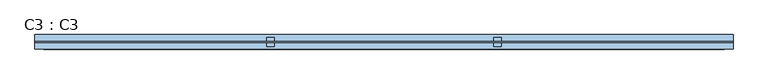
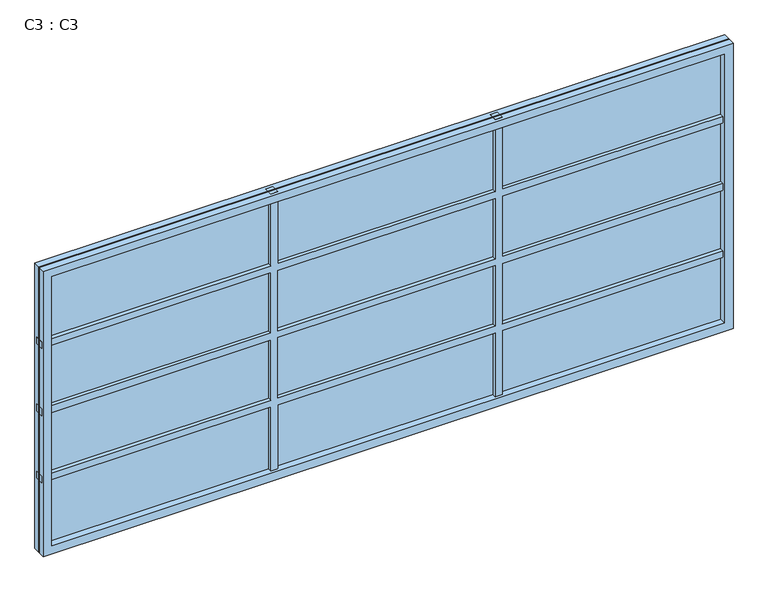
"""IFC4 building model written with IfcOpenShell, lengths in millimetres: window geometry, C3 : C3."""

from ifc_helpers import new_model, si_unit, frame, origin, place, context, project, spatial, polyline, outline, extrude, source, transform, mapped, element, save


def c3_c3_75805492(model_context):
    return source(origin(), model_context, "Body", "SweptSolid", [
        extrude(outline(polyline([(2400.0, -3.0), (-2400.0, -3.0), (-2400.0, 3.0), (2400.0, 3.0), (2400.0, -3.0)])), frame((0.0, 0.0, 900.0), z_axis=(0.0, 0.0, 1.0), x_axis=(1.0, 0.0, 0.0)), (0.0, 0.0, 1.0), 2100.0),
        extrude(outline(polyline([(2470.0, 805.0), (3000.0, 805.0), (3000.0, 755.0), (2470.0, 755.0), (2470.0, -755.0), (3000.0, -755.0), (3000.0, -805.0), (2470.0, -805.0), (2470.0, -2400.0), (2420.0, -2400.0), (2420.0, -805.0), (1975.0, -805.0), (1975.0, -2400.0), (1925.0, -2400.0), (1925.0, -805.0), (1480.0, -805.0), (1480.0, -2400.0), (1430.0, -2400.0), (1430.0, -805.0), (900.0, -805.0), (900.0, -755.0), (1430.0, -755.0), (1430.0, 755.0), (900.0, 755.0), (900.0, 805.0), (1430.0, 805.0), (1430.0, 2400.0), (1480.0, 2400.0), (1480.0, 805.0), (1925.0, 805.0), (1925.0, 2400.0), (1975.0, 2400.0), (1975.0, 805.0), (2420.0, 805.0), (2420.0, 2400.0), (2470.0, 2400.0), (2470.0, 805.0)]), holes=[polyline([(2420.0, 755.0), (1975.0, 755.0), (1975.0, -755.0), (2420.0, -755.0), (2420.0, 755.0)]), polyline([(1925.0, 755.0), (1480.0, 755.0), (1480.0, -755.0), (1925.0, -755.0), (1925.0, 755.0)])]), frame((0.0, -30.0, 0.0), z_axis=(0.0, 1.0, 0.0), x_axis=(0.0, 0.0, 1.0)), (0.0, 0.0, 1.0), 60.0),
        extrude(outline(polyline([(3000.0, -2400.0), (900.0, -2400.0), (900.0, 2400.0), (3000.0, 2400.0), (3000.0, -2400.0)]), holes=[polyline([(2940.0, 2340.0), (960.0, 2340.0), (960.0, -2340.0), (2940.0, -2340.0), (2940.0, 2340.0)])]), frame((0.0, -50.0, 0.0), z_axis=(0.0, 1.0, 0.0), x_axis=(0.0, 0.0, 1.0)), (0.0, 0.0, 1.0), 100.0),
    ])


if __name__ == "__main__":
    model = new_model("IFC4")
    model_context = context("Model", 3, world=origin())
    ifc_project = project(units=[si_unit("LENGTHUNIT", "METRE", prefix="MILLI")], contexts=[model_context])
    site = spatial("IfcSite", under=ifc_project)
    building = spatial("IfcBuilding", under=site)
    placement = place(None, origin())
    c3_c3_shape = c3_c3_75805492(model_context)
    element("IfcWindow", 1, ObjectType="C3 : C3", at=placement, inside=building, context=model_context, shape_type="MappedRepresentation", body=[
        mapped(c3_c3_shape, transform((0.0, 0.0, 0.0), x_axis=(1.0, 0.0, 0.0), y_axis=(0.0, 1.0, 0.0), z_axis=(0.0, 0.0, 1.0))),
    ])
    save(model, "model.ifc")
